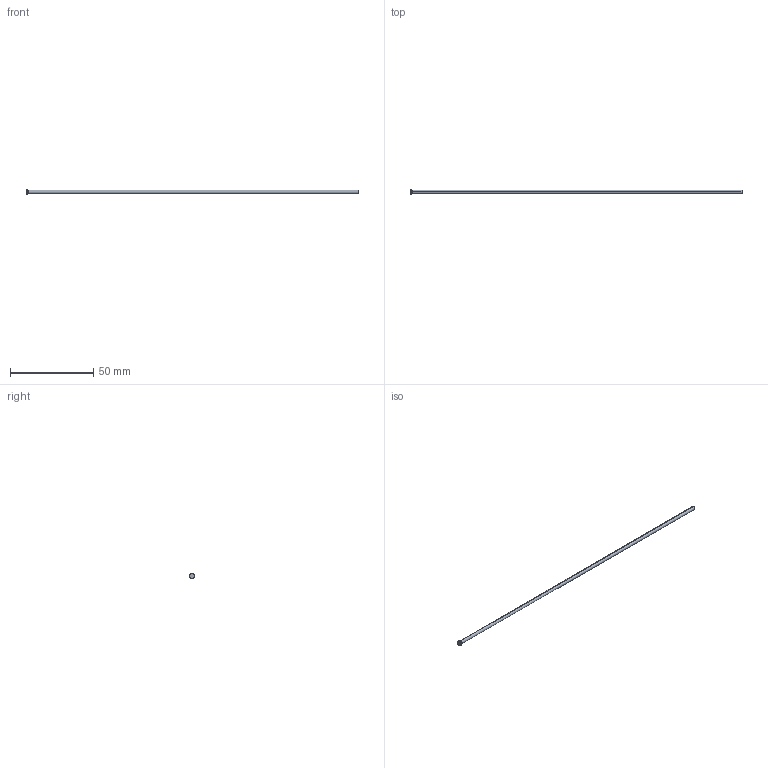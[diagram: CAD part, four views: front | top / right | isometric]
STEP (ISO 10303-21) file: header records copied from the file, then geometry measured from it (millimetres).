
FILE_DESCRIPTION (( 'STEP AP214' ), '1' );
FILE_NAME ('D-2,1x200.STEP', '2020-06-08T09:51:17', ( 'August' ), ( '' ), 'SwSTEP 2.0', 'SolidWorks 2018', '' );
FILE_SCHEMA (( 'AUTOMOTIVE_DESIGN' ));
Length unit declared in the file: millimetre
Products named in the file (1): D-2,1x200
Bounding box: 200 x 3 x 3 mm (x, y, z)
Volume: 696.5 mm3; surface area: 1333.9 mm2
Topology: 1 solids, 1 shells, 10 faces, 18 edges, 10 vertices
Faces by surface type: cylinder 4, torus 2, cone 2, plane 2
Entity records: 280 total; most frequent: DIRECTION 52, CARTESIAN_POINT 39, ORIENTED_EDGE 36, AXIS2_PLACEMENT_3D 23, EDGE_CURVE 18, CIRCLE 12, FACE_OUTER_BOUND 10, ADVANCED_FACE 10
